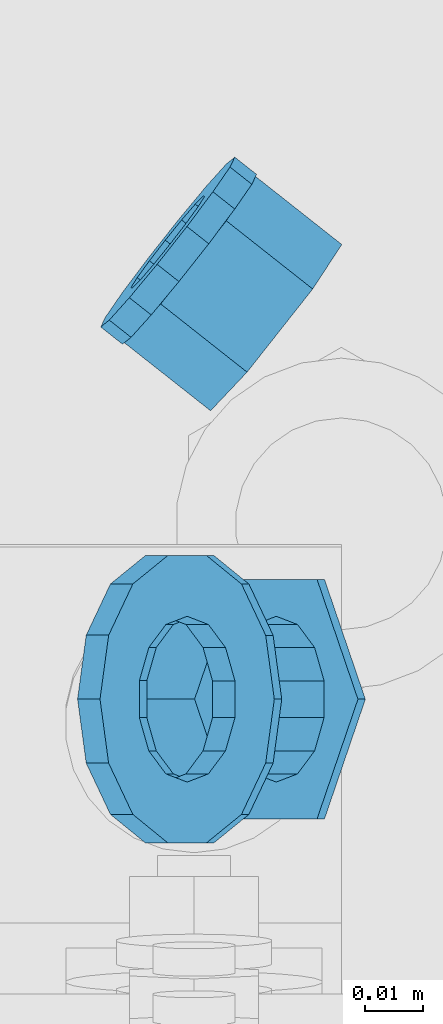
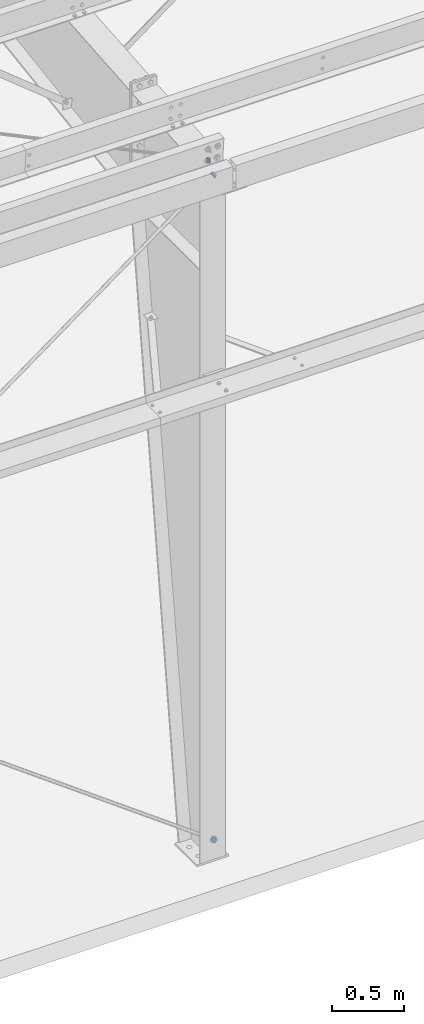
# One storey, part 43 of 185: 4 members, 2 beams, 6 elements without a shape of their own.
"""IFC2X3 building model written with IfcOpenShell, lengths in millimetres."""

from ifc_helpers import new_model, si_unit, frame, origin_with_axes, place, context, subcontext, project, spatial, polyline, outline, extrude, material, type_object, element, aggregate, save


model = new_model("IFC2X3")

# Units and contexts
model_context = context("Model", 3, precision=1e-05, world=origin_with_axes())
body_context = subcontext(model_context, "Body", "Model", "MODEL_VIEW")
ifc_project = project(units=[si_unit("LENGTHUNIT", "METRE", prefix="MILLI"), si_unit("AREAUNIT", "SQUARE_METRE"), si_unit("VOLUMEUNIT", "CUBIC_METRE"), si_unit("MASSUNIT", "GRAM", prefix="KILO"), si_unit("TIMEUNIT", "SECOND"), si_unit("PLANEANGLEUNIT", "RADIAN"), si_unit("SOLIDANGLEUNIT", "STERADIAN"), si_unit("THERMODYNAMICTEMPERATUREUNIT", "DEGREE_CELSIUS"), si_unit("LUMINOUSINTENSITYUNIT", "LUMEN")], contexts=[model_context])

# Site, building, storey
site_placement = place(None, origin_with_axes())
site = spatial("IfcSite", under=ifc_project, at=site_placement, Name="Undefined", CompositionType="ELEMENT")
building_placement = place(site_placement, origin_with_axes())
building = spatial("IfcBuilding", under=site, at=building_placement, Name="Undefined", CompositionType="ELEMENT")
storey_placement = place(building_placement, origin_with_axes())
storey = spatial("IfcBuildingStorey", under=building, at=storey_placement, Name="Undefined", CompositionType="ELEMENT", Elevation=0.0)

# Assembly, member
assembly_1_placement = place(storey_placement, origin_with_axes())
assembly_1 = element("IfcElementAssembly", 1, at=assembly_1_placement, inside=storey, Name="Steel Assembly", AssemblyPlace="NOTDEFINED", PredefinedType="RIGID_FRAME")
ifc_material = material(Name="STEEL/55")
member_type_1 = type_object("IfcMemberType", Name="1_HEAVY_HEX_NUT", PredefinedType="NOTDEFINED")
member_1_placement = place(assembly_1_placement, frame((37757.2037239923, 363.473999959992, 140.252803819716), z_axis=(8.1869000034e-05, 0.999999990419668, 0.00011161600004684), x_axis=(0.806343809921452, 0.0, -0.59144708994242)))
member_1 = element("IfcMember", 2, at=member_1_placement, type_object=member_type_1, material=ifc_material, Name="1 H HEX NUT A563", ObjectType="1_HEAVY_HEX_NUT", context=body_context, shape_type="SweptSolid", body=[
    extrude(outline(polyline([(-11.909999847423, 20.620000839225), (11.9099998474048, 20.6200008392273), (23.8099994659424, -4.9453774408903e-12), (11.9099998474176, -20.6200008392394), (-11.9099998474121, -20.6200008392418), (-23.8099994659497, -9.49285094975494e-12), (-11.909999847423, 20.620000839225)]), holes=[polyline([(11.1723718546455, -8.90966924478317), (13.9317198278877, -3.17982413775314), (13.9317198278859, 3.17982413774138), (11.17237185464, 8.9096692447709), (6.20019861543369, 12.8748450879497), (-5.45696821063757e-12, 14.2899999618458), (-6.20019861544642, 12.8748450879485), (-11.1723718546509, 8.90966924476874), (-13.931719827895, 3.17982413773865), (-13.9317198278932, -3.17982413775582), (-11.1723718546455, -8.90966924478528), (-6.20019861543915, -12.8748450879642), (0.0, -14.2899999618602), (6.20019861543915, -12.874845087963), (11.1723718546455, -8.90966924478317)])]), frame((19.0500000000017, 0.0, 2.58175642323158e-19), z_axis=(-1.0, 0.0, 0.0), x_axis=(0.0, -1.0, 0.0)), (0.0, 0.0, 1.0), 19.0),
])
aggregate(assembly_1, [member_1])

assembly_2_placement = place(storey_placement, origin_with_axes())
assembly_2 = element("IfcElementAssembly", 3, at=assembly_2_placement, inside=storey, Name="Steel Assembly", AssemblyPlace="NOTDEFINED", PredefinedType="RIGID_FRAME")
member_2_placement = place(assembly_2_placement, frame((37755.9229774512, 363.473999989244, 5784.86253853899), z_axis=(-0.000279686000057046, -0.999999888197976, 0.000381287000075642), x_axis=(0.806329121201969, 0.0, 0.591467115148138)))
member_2 = element("IfcMember", 4, at=member_2_placement, type_object=member_type_1, material=ifc_material, Name="1 H HEX NUT A563", ObjectType="1_HEAVY_HEX_NUT", context=body_context, shape_type="SweptSolid", body=[
    extrude(outline(polyline([(-11.909999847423, 20.620000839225), (11.9099998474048, 20.6200008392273), (23.8099994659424, -4.9453774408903e-12), (11.9099998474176, -20.6200008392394), (-11.9099998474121, -20.6200008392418), (-23.8099994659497, -9.49285094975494e-12), (-11.909999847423, 20.620000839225)]), holes=[polyline([(11.1723718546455, -8.90966924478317), (13.9317198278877, -3.17982413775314), (13.9317198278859, 3.17982413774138), (11.17237185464, 8.9096692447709), (6.20019861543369, 12.8748450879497), (-5.45696821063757e-12, 14.2899999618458), (-6.20019861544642, 12.8748450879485), (-11.1723718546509, 8.90966924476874), (-13.931719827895, 3.17982413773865), (-13.9317198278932, -3.17982413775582), (-11.1723718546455, -8.90966924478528), (-6.20019861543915, -12.8748450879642), (0.0, -14.2899999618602), (6.20019861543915, -12.874845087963), (11.1723718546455, -8.90966924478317)])]), frame((19.0500000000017, 0.0, 2.58175642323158e-19), z_axis=(-1.0, 0.0, 0.0), x_axis=(0.0, -1.0, 0.0)), (0.0, 0.0, 1.0), 19.1),
])
aggregate(assembly_2, [member_2])

assembly_3_placement = place(storey_placement, origin_with_axes())
assembly_3 = element("IfcElementAssembly", 5, at=assembly_3_placement, inside=storey, Name="Steel Assembly", AssemblyPlace="NOTDEFINED", PredefinedType="RIGID_FRAME")
member_type_2 = type_object("IfcMemberType", Name="1_WASHER", PredefinedType="NOTDEFINED")
member_3_placement = place(assembly_3_placement, frame((37753.3635115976, 363.473999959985, 143.069570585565), z_axis=(8.1869000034e-05, 0.999999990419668, 0.00011161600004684), x_axis=(0.806343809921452, 0.0, -0.59144708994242)))
member_3 = element("IfcMember", 6, at=member_3_placement, type_object=member_type_2, material=ifc_material, Name="1 WASHER F844", ObjectType="1_WASHER", context=body_context, shape_type="SweptSolid", body=[
    extrude(outline(polyline([(15.8366407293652, 19.8585193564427), (22.8846089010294, 11.020646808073), (25.3999996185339, 6.25277607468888e-13), (22.8846089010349, -11.0206468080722), (15.8366407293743, -19.8585193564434), (5.6520316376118, -24.7631685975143), (-5.65203163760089, -24.7631685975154), (-15.8366407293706, -19.8585193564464), (-22.8846089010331, -11.0206468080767), (-25.3999996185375, -4.32009983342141e-12), (-22.8846089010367, 11.0206468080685), (-15.8366407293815, 19.8585193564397), (-5.65203163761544, 24.7631685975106), (5.65203163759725, 24.7631685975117), (15.8366407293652, 19.8585193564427)]), holes=[polyline([(11.1723718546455, -8.90966924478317), (13.9317198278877, -3.17982413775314), (13.9317198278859, 3.17982413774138), (11.17237185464, 8.9096692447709), (6.20019861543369, 12.8748450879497), (-5.45696821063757e-12, 14.2899999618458), (-6.20019861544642, 12.8748450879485), (-11.1723718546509, 8.90966924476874), (-13.931719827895, 3.17982413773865), (-13.9317198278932, -3.17982413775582), (-11.1723718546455, -8.90966924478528), (-6.20019861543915, -12.8748450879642), (0.0, -14.2899999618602), (6.20019861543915, -12.874845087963), (11.1723718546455, -8.90966924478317)])]), frame((4.76250000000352, 2.6437185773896e-16, 5.6843418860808e-14), z_axis=(-1.0, 0.0, 0.0), x_axis=(0.0, -1.0, 0.0)), (0.0, 0.0, 1.0), 4.8),
])
aggregate(assembly_3, [member_3])

assembly_4_placement = place(storey_placement, origin_with_axes())
assembly_4 = element("IfcElementAssembly", 7, at=assembly_4_placement, inside=storey, Name="Steel Assembly", AssemblyPlace="NOTDEFINED", PredefinedType="RIGID_FRAME")
member_4_placement = place(assembly_4_placement, frame((37752.0828350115, 363.473999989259, 5782.04567640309), z_axis=(-0.000279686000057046, -0.999999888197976, 0.000381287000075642), x_axis=(0.806329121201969, 0.0, 0.591467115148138)))
member_4 = element("IfcMember", 8, at=member_4_placement, type_object=member_type_2, material=ifc_material, Name="1 WASHER F844", ObjectType="1_WASHER", context=body_context, shape_type="SweptSolid", body=[
    extrude(outline(polyline([(15.8366407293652, 19.8585193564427), (22.8846089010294, 11.020646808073), (25.3999996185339, 6.25277607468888e-13), (22.8846089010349, -11.0206468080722), (15.8366407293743, -19.8585193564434), (5.6520316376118, -24.7631685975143), (-5.65203163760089, -24.7631685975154), (-15.8366407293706, -19.8585193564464), (-22.8846089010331, -11.0206468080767), (-25.3999996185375, -4.32009983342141e-12), (-22.8846089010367, 11.0206468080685), (-15.8366407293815, 19.8585193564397), (-5.65203163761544, 24.7631685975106), (5.65203163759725, 24.7631685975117), (15.8366407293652, 19.8585193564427)]), holes=[polyline([(11.1723718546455, -8.90966924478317), (13.9317198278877, -3.17982413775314), (13.9317198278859, 3.17982413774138), (11.17237185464, 8.9096692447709), (6.20019861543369, 12.8748450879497), (-5.45696821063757e-12, 14.2899999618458), (-6.20019861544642, 12.8748450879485), (-11.1723718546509, 8.90966924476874), (-13.931719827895, 3.17982413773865), (-13.9317198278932, -3.17982413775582), (-11.1723718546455, -8.90966924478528), (-6.20019861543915, -12.8748450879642), (0.0, -14.2899999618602), (6.20019861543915, -12.874845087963), (11.1723718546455, -8.90966924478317)])]), frame((4.76250000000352, 2.6437185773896e-16, 5.6843418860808e-14), z_axis=(-1.0, 0.0, 0.0), x_axis=(0.0, -1.0, 0.0)), (0.0, 0.0, 1.0), 4.8),
])
aggregate(assembly_4, [member_4])

# Assembly, beam
assembly_5_placement = place(storey_placement, origin_with_axes())
assembly_5 = element("IfcElementAssembly", 9, at=assembly_5_placement, inside=storey, Name="Steel Assembly", AssemblyPlace="NOTDEFINED", PredefinedType="RIGID_FRAME")
beam_type_1 = type_object("IfcBeamType", Name="3/4_HEAVY_HEX_NUT", PredefinedType="NOTDEFINED")
beam_1_placement = place(assembly_5_placement, frame((37756.3371730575, 439.310691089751, 5869.75105186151), z_axis=(-0.0405082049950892, 0.0318876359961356, -0.998670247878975), x_axis=(0.783982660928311, -0.618638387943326, -0.0515531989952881)))
beam_1 = element("IfcBeam", 10, at=beam_1_placement, type_object=beam_type_1, material=ifc_material, Name="3/4 H HEX NUT A563", ObjectType="3/4_HEAVY_HEX_NUT", context=body_context, shape_type="SweptSolid", body=[
    extrude(outline(polyline([(9.13000011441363, -15.810000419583), (-9.13000011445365, -15.810000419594), (-18.2600002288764, 1.54614099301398e-11), (-9.13000011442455, 15.8100004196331), (9.13000011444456, 15.8100004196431), (18.2600002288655, 3.36513039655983e-11), (9.13000011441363, -15.810000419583)]), holes=[polyline([(-8.06850066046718, 6.43441456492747), (-10.061255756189, 2.29641597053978), (-10.0612557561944, -2.29641597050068), (-8.06850066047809, -6.43441456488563), (-4.47768005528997, -9.29799844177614), (-1.09139364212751e-11, -10.3199996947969), (4.47768005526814, -9.29799844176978), (8.0685006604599, -6.43441456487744), (10.0612557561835, -2.29641597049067), (10.0612557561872, 2.2964159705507), (8.06850066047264, 6.43441456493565), (4.47768005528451, 9.29799844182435), (7.27595761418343e-12, 10.319999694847), (-4.47768005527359, 9.2979984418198), (-8.06850066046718, 6.43441456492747)])]), frame((19.0500000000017, 0.0, 2.58175642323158e-19), z_axis=(-1.0, 0.0, 0.0), x_axis=(0.0, -1.0, 0.0)), (0.0, 0.0, 1.0), 19.0),
])
aggregate(assembly_5, [beam_1])

assembly_6_placement = place(storey_placement, origin_with_axes())
assembly_6 = element("IfcElementAssembly", 11, at=assembly_6_placement, inside=storey, Name="Steel Assembly", AssemblyPlace="NOTDEFINED", PredefinedType="RIGID_FRAME")
beam_type_2 = type_object("IfcBeamType", Name="3/4_WASHER", PredefinedType="NOTDEFINED")
beam_2_placement = place(assembly_6_placement, frame((37752.6034556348, 442.256956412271, 5869.9965739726), z_axis=(-0.0405082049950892, 0.0318876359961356, -0.998670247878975), x_axis=(0.783982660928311, -0.618638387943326, -0.0515531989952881)))
beam_2 = element("IfcBeam", 12, at=beam_2_placement, type_object=beam_type_2, material=ifc_material, Name="3/4 WASHER F844", ObjectType="3/4_WASHER", context=body_context, shape_type="SweptSolid", body=[
    extrude(outline(polyline([(-11.6280845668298, -14.5811568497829), (-16.8030690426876, -8.09193156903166), (-18.649999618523, -4.54747350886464e-12), (-16.8030690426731, 8.09193156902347), (-11.6280845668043, 14.5811568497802), (-4.15001533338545, 18.1824051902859), (4.15001533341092, 18.1824051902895), (11.628084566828, 14.5811568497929), (16.8030690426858, 8.09193156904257), (18.6499996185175, 1.45519152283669e-11), (16.8030690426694, -8.09193156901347), (11.6280845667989, -14.5811568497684), (4.15001533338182, -18.182405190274), (-4.15001533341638, -18.1824051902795), (-11.6280845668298, -14.5811568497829)]), holes=[polyline([(-8.06850066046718, 6.43441456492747), (-10.061255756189, 2.29641597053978), (-10.0612557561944, -2.29641597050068), (-8.06850066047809, -6.43441456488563), (-4.47768005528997, -9.29799844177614), (-1.09139364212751e-11, -10.3199996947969), (4.47768005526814, -9.29799844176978), (8.0685006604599, -6.43441456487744), (10.0612557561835, -2.29641597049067), (10.0612557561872, 2.2964159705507), (8.06850066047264, 6.43441456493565), (4.47768005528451, 9.29799844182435), (7.27595761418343e-12, 10.319999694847), (-4.47768005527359, 9.2979984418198), (-8.06850066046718, 6.43441456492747)])]), frame((4.76250000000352, 2.6437185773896e-16, 5.6843418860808e-14), z_axis=(-1.0, 0.0, 0.0), x_axis=(0.0, -1.0, 0.0)), (0.0, 0.0, 1.0), 4.8),
])
aggregate(assembly_6, [beam_2])

save(model, "model.ifc")
